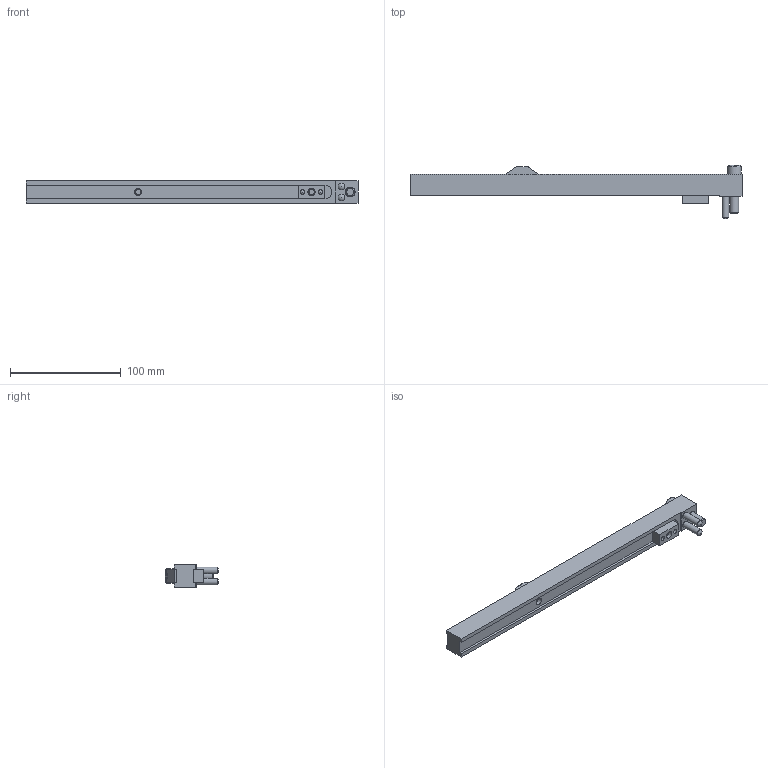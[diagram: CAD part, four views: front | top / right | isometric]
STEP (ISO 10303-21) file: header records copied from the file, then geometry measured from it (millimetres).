
FILE_DESCRIPTION(/* description */ ('STEP AP214'),/* implementation_level */ '2;1');
FILE_NAME(/* name */ 'KU12300',/* time_stamp */ '2024-12-19T07:57:40+01:00',/* author */ ('License CC BY-ND 4.0'),/* organization */ ('CADENAS'),/* preprocessor_version */ 'ST-DEVELOPER v19.3',/* originating_system */ 'PARTsolutions',/* authorisation */ ' ');
FILE_SCHEMA (('AUTOMOTIVE_DESIGN {1 0 10303 214 3 1 1}'));
Length unit declared in the file: millimetre
Products named in the file (10): KU12300; KU1230010; KU1230011; KU1230012; KU1230013; KU1230014; KU1230015; KU1230016; KU123008; KU123009
Assembly tree (10 placements, depth 2):
  KU12300
    KU1230010
    KU1230011
    KU1230012
    KU1230013
    KU1230014
    KU1230015
    KU1230016
    KU123008  x2
    KU123009
Bounding box: 300 x 48 x 20 mm (x, y, z)
Volume: 107580.8 mm3; surface area: 36188.3 mm2
Topology: 10 solids, 10 shells, 100 faces, 246 edges, 163 vertices
Faces by surface type: plane 61, cylinder 24, sphere 8, cone 7
Full cylindrical faces by diameter (mm): 4 x6, 6 x6, 6.6 x4, 8 x1, 9 x1, 10 x1, 11 x2, 13 x1
Entity records: 2823 total; most frequent: DIRECTION 456, CARTESIAN_POINT 438, ORIENTED_EDGE 370, EDGE_CURVE 185, AXIS2_PLACEMENT_3D 165, EDGE_LOOP 152, FACE_BOUND 152, VERTEX_POINT 139
